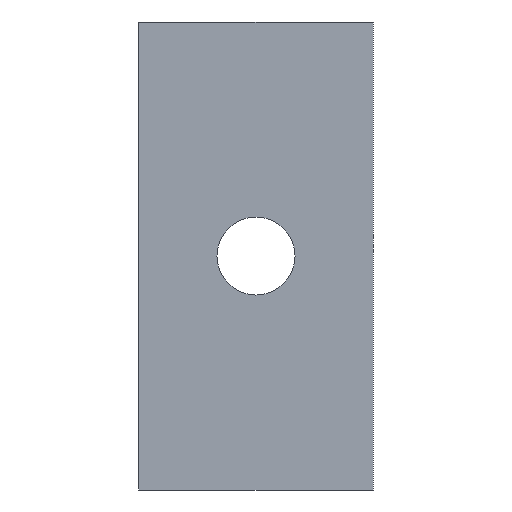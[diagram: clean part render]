
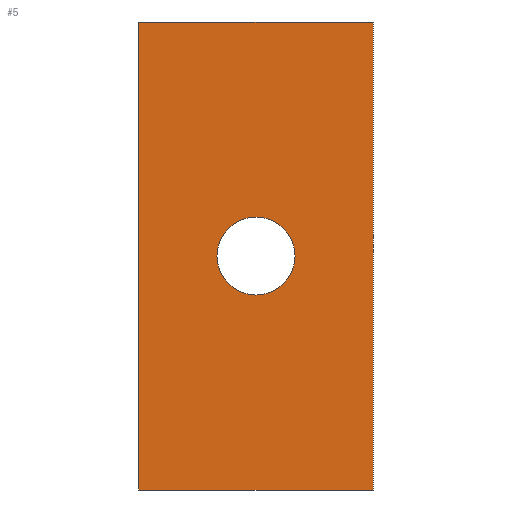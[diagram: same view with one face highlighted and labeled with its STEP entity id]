
A CAD part, top view. The second image highlights one B-rep face of the part: STEP entity #5.
In plain terms, the highlighted planar face has unit normal (0, 0, 1).
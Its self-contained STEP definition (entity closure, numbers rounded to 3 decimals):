
#2 = DIRECTION ( 'NONE',  ( 0., 1., 0. ) ) ;
#3 = PLANE ( 'NONE',  #41 ) ;
#4 = CARTESIAN_POINT ( 'NONE',  ( 15., 30., 0. ) ) ;
#5 = ADVANCED_FACE ( 'NONE', ( #45, #75 ), #3, .T. ) ;
#6 = DIRECTION ( 'NONE',  ( 0., 0., 1. ) ) ;
#7 = LINE ( 'NONE', #10, #77 ) ;
#8 = ORIENTED_EDGE ( 'NONE', *, *, #88, .T. ) ;
#9 = CARTESIAN_POINT ( 'NONE',  ( 15., -30., 0. ) ) ;
#10 = CARTESIAN_POINT ( 'NONE',  ( 15., -30., 0. ) ) ;
#12 = AXIS2_PLACEMENT_3D ( 'NONE', #21, #23, #37 ) ;
#13 = EDGE_CURVE ( 'NONE', #15, #42, #72, .T. ) ;
#14 = CARTESIAN_POINT ( 'NONE',  ( 15., 30., 0. ) ) ;
#15 = VERTEX_POINT ( 'NONE', #4 ) ;
#16 = CARTESIAN_POINT ( 'NONE',  ( -5., 0., 0. ) ) ;
#18 = VECTOR ( 'NONE', #2, 1000. ) ;
#20 = CARTESIAN_POINT ( 'NONE',  ( -15., -30., 0. ) ) ;
#21 = CARTESIAN_POINT ( 'NONE',  ( 0., 0., 0. ) ) ;
#22 = VERTEX_POINT ( 'NONE', #59 ) ;
#23 = DIRECTION ( 'NONE',  ( 0., 0., 1. ) ) ;
#24 = EDGE_CURVE ( 'NONE', #42, #64, #57, .T. ) ;
#25 = CARTESIAN_POINT ( 'NONE',  ( -15., 30., 0. ) ) ;
#28 = ORIENTED_EDGE ( 'NONE', *, *, #24, .T. ) ;
#30 = EDGE_CURVE ( 'NONE', #22, #92, #47, .T. ) ;
#31 = DIRECTION ( 'NONE',  ( 1., 0., 0. ) ) ;
#34 = AXIS2_PLACEMENT_3D ( 'NONE', #52, #56, #38 ) ;
#35 = EDGE_LOOP ( 'NONE', ( #28, #8, #68, #73 ) ) ;
#37 = DIRECTION ( 'NONE',  ( 1., 0., 0. ) ) ;
#38 = DIRECTION ( 'NONE',  ( 1., 0., 0. ) ) ;
#39 = EDGE_LOOP ( 'NONE', ( #95, #65 ) ) ;
#41 = AXIS2_PLACEMENT_3D ( 'NONE', #63, #6, #31 ) ;
#42 = VERTEX_POINT ( 'NONE', #25 ) ;
#45 = FACE_BOUND ( 'NONE', #39, .T. ) ;
#47 = CIRCLE ( 'NONE', #12, 5. ) ;
#48 = EDGE_CURVE ( 'NONE', #51, #15, #58, .T. ) ;
#49 = CARTESIAN_POINT ( 'NONE',  ( 15., -30., 0. ) ) ;
#51 = VERTEX_POINT ( 'NONE', #49 ) ;
#52 = CARTESIAN_POINT ( 'NONE',  ( 0., 0., 0. ) ) ;
#55 = VECTOR ( 'NONE', #81, 1000. ) ;
#56 = DIRECTION ( 'NONE',  ( 0., 0., 1. ) ) ;
#57 = LINE ( 'NONE', #93, #66 ) ;
#58 = LINE ( 'NONE', #9, #18 ) ;
#59 = CARTESIAN_POINT ( 'NONE',  ( 5., 0., 0. ) ) ;
#62 = CIRCLE ( 'NONE', #34, 5. ) ;
#63 = CARTESIAN_POINT ( 'NONE',  ( 0., 0., 0. ) ) ;
#64 = VERTEX_POINT ( 'NONE', #20 ) ;
#65 = ORIENTED_EDGE ( 'NONE', *, *, #76, .F. ) ;
#66 = VECTOR ( 'NONE', #83, 1000. ) ;
#68 = ORIENTED_EDGE ( 'NONE', *, *, #48, .T. ) ;
#72 = LINE ( 'NONE', #14, #55 ) ;
#73 = ORIENTED_EDGE ( 'NONE', *, *, #13, .T. ) ;
#75 = FACE_OUTER_BOUND ( 'NONE', #35, .T. ) ;
#76 = EDGE_CURVE ( 'NONE', #92, #22, #62, .T. ) ;
#77 = VECTOR ( 'NONE', #84, 1000. ) ;
#81 = DIRECTION ( 'NONE',  ( -1., 0., 0. ) ) ;
#83 = DIRECTION ( 'NONE',  ( 0., -1., 0. ) ) ;
#84 = DIRECTION ( 'NONE',  ( 1., 0., 0. ) ) ;
#88 = EDGE_CURVE ( 'NONE', #64, #51, #7, .T. ) ;
#92 = VERTEX_POINT ( 'NONE', #16 ) ;
#93 = CARTESIAN_POINT ( 'NONE',  ( -15., -30., 0. ) ) ;
#95 = ORIENTED_EDGE ( 'NONE', *, *, #30, .F. ) ;
